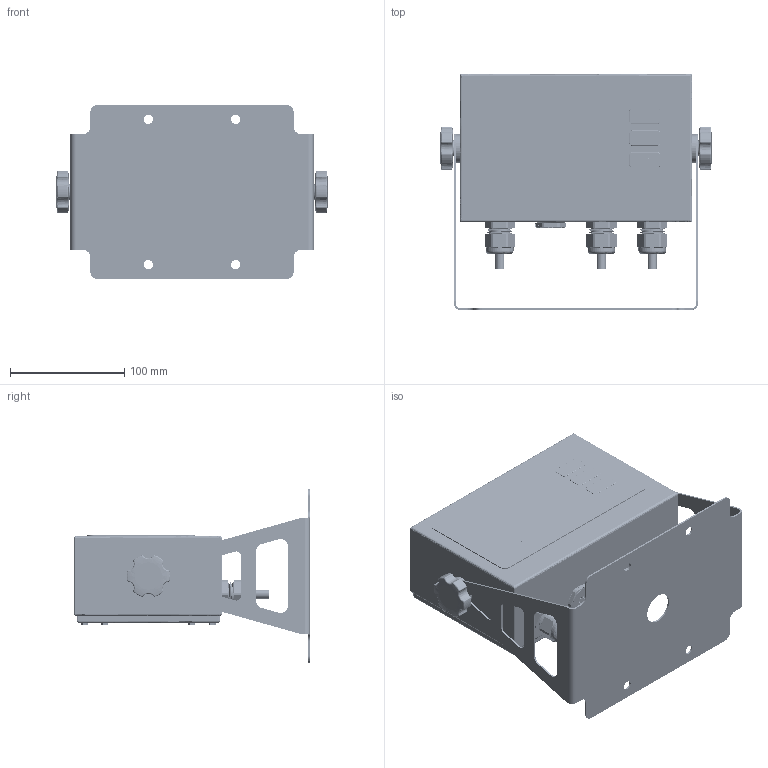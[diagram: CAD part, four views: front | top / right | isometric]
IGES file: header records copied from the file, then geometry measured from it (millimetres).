
Start section: SolidWorks IGES file using analytic representation for surfaces
Global section: file name: C:\0_Work\SolidWorks\HI 6501 Series\HI6501-S-WP-EIP-DC.IGS; native system: SolidWorks 2023; preprocessor: SolidWorks 2023; author: vach01; date: 240118.104802; units: inch
Bounding box: 237.23 x 205.98 x 152.4 mm (x, y, z)
Surface area: 696747.1 mm2 (no closed solid volume)
Topology: 0 solids, 0 shells, 25915 faces, 221094 edges, 220887 vertices
Faces by surface type: bspline 20037, revolution 5878
